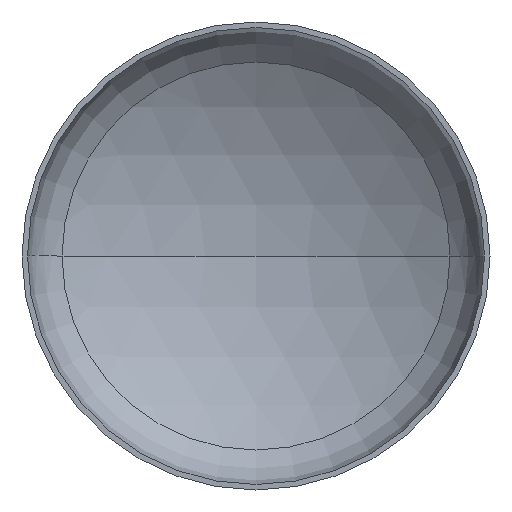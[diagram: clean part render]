
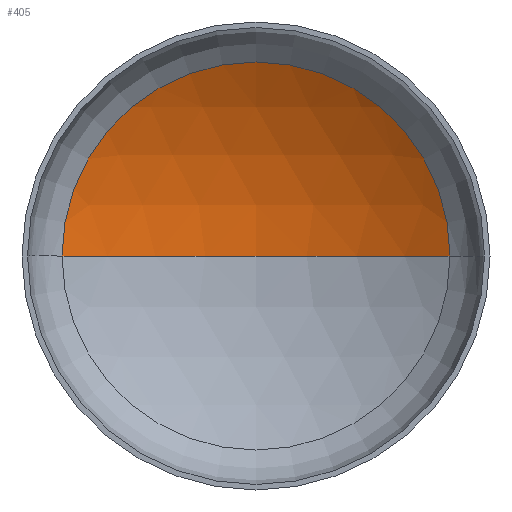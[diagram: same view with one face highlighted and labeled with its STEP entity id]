
A CAD part, front view. The second image highlights one B-rep face of the part: STEP entity #405.
In plain terms, the highlighted spherical face has radius 1360 mm.
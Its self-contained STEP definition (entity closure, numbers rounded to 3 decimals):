
#10 = AXIS2_PLACEMENT_3D ( 'NONE', #144, #145, #307 ) ;
#22 = AXIS2_PLACEMENT_3D ( 'NONE', #182, #231, #356 ) ;
#27 = CIRCLE ( 'NONE', #399, 1360. ) ;
#60 = CIRCLE ( 'NONE', #10, 1360. ) ;
#66 = VERTEX_POINT ( 'NONE', #320 ) ;
#98 = CARTESIAN_POINT ( 'NONE',  ( 0., -880.798, 0. ) ) ;
#112 = ORIENTED_EDGE ( 'NONE', *, *, #350, .T. ) ;
#124 = VERTEX_POINT ( 'NONE', #210 ) ;
#125 = VERTEX_POINT ( 'NONE', #234 ) ;
#131 = EDGE_LOOP ( 'NONE', ( #140, #154, #112 ) ) ;
#136 = DIRECTION ( 'NONE',  ( -1., 0., 0. ) ) ;
#140 = ORIENTED_EDGE ( 'NONE', *, *, #365, .F. ) ;
#143 = AXIS2_PLACEMENT_3D ( 'NONE', #291, #161, #294 ) ;
#144 = CARTESIAN_POINT ( 'NONE',  ( 0., -880.798, 0. ) ) ;
#145 = DIRECTION ( 'NONE',  ( 0., 0., 1. ) ) ;
#154 = ORIENTED_EDGE ( 'NONE', *, *, #381, .T. ) ;
#161 = DIRECTION ( 'NONE',  ( 0., 0., -1. ) ) ;
#182 = CARTESIAN_POINT ( 'NONE',  ( 0., 282.37, 0. ) ) ;
#210 = CARTESIAN_POINT ( 'NONE',  ( 704.727, 282.37, 0. ) ) ;
#231 = DIRECTION ( 'NONE',  ( 0., -1., 0. ) ) ;
#234 = CARTESIAN_POINT ( 'NONE',  ( 0., 479.202, 0. ) ) ;
#269 = SPHERICAL_SURFACE ( 'NONE', #143, 1360. ) ;
#290 = CIRCLE ( 'NONE', #22, 704.727 ) ;
#291 = CARTESIAN_POINT ( 'NONE',  ( 0., -880.798, 0. ) ) ;
#294 = DIRECTION ( 'NONE',  ( -1., 0., 0. ) ) ;
#307 = DIRECTION ( 'NONE',  ( 1., 0., 0. ) ) ;
#320 = CARTESIAN_POINT ( 'NONE',  ( -704.727, 282.37, 0. ) ) ;
#327 = FACE_OUTER_BOUND ( 'NONE', #131, .T. ) ;
#350 = EDGE_CURVE ( 'NONE', #124, #66, #290, .T. ) ;
#353 = DIRECTION ( 'NONE',  ( 0., 0., -1. ) ) ;
#356 = DIRECTION ( 'NONE',  ( 1., 0., 0. ) ) ;
#365 = EDGE_CURVE ( 'NONE', #125, #66, #60, .T. ) ;
#381 = EDGE_CURVE ( 'NONE', #125, #124, #27, .T. ) ;
#399 = AXIS2_PLACEMENT_3D ( 'NONE', #98, #353, #136 ) ;
#405 = ADVANCED_FACE ( 'NONE', ( #327 ), #269, .F. ) ;
